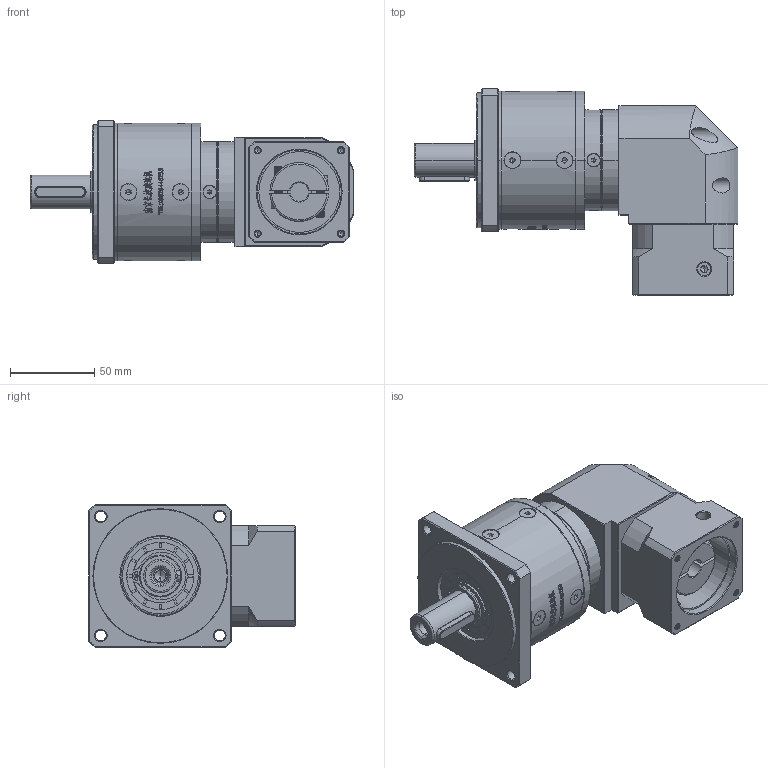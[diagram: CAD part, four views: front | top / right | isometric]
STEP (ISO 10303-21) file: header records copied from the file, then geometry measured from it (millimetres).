
FILE_DESCRIPTION (( 'STEP AP214' ), '1' );
FILE_NAME ('ZFR80-D20-L2-11-50-70-M4.step', '2022-05-08T14:48:12', ( '' ), ( 'Microsoft' ), 'SwSTEP 2.0', 'SolidWorks 2016', '' );
FILE_SCHEMA (( 'AUTOMOTIVE_DESIGN' ));
Length unit declared in the file: millimetre
Products named in the file (1): ZFR80-D20-L2-11-50-70-M4
Bounding box: 192.5 x 122.7 x 85 mm (x, y, z)
Volume: 785539.7 mm3; surface area: 102435.9 mm2
Topology: 17 solids, 18 shells, 3070 faces, 8185 edges, 5272 vertices
Faces by surface type: plane 1601, bspline 608, cylinder 460, cone 381, torus 20
Entity records: 163262 total; most frequent: CARTESIAN_POINT 58305, ORIENTED_EDGE 16278, DIRECTION 12415, EDGE_CURVE 8139, VERTEX_POINT 5272, LINE 4969, VECTOR 4969, AXIS2_PLACEMENT_3D 3723
